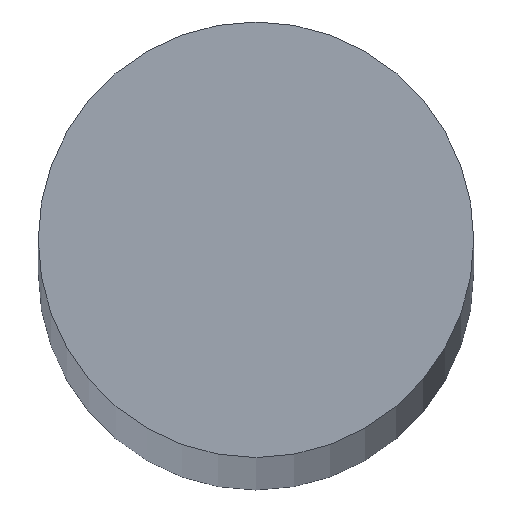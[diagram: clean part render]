
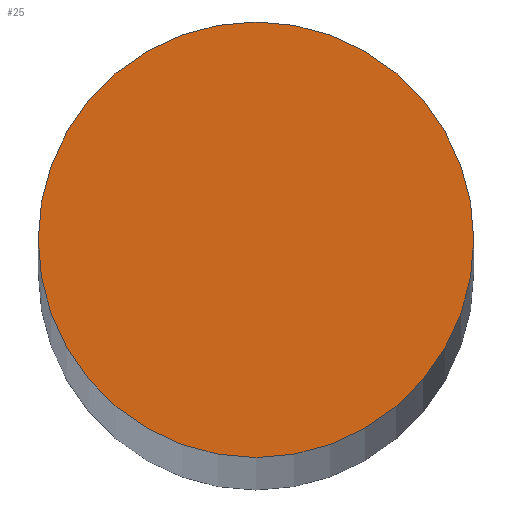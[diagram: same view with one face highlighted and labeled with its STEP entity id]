
A CAD part, top view. The second image highlights one B-rep face of the part: STEP entity #25.
In plain terms, the highlighted planar face has unit normal (0, 0, 1).
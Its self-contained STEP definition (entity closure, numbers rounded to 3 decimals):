
#4 = EDGE_CURVE ( 'NONE', #75, #78, #49, .T. ) ;
#8 = AXIS2_PLACEMENT_3D ( 'NONE', #105, #108, #109 ) ;
#11 = AXIS2_PLACEMENT_3D ( 'NONE', #91, #93, #94 ) ;
#14 = AXIS2_PLACEMENT_3D ( 'NONE', #85, #86, #87 ) ;
#19 = EDGE_CURVE ( 'NONE', #78, #75, #52, .T. ) ;
#25 = ADVANCED_FACE ( 'NONE', ( #55 ), #106, .T. ) ;
#34 = EDGE_LOOP ( 'NONE', ( #40, #39 ) ) ;
#39 = ORIENTED_EDGE ( 'NONE', *, *, #4, .T. ) ;
#40 = ORIENTED_EDGE ( 'NONE', *, *, #19, .T. ) ;
#49 = CIRCLE ( 'NONE', #14, 6. ) ;
#52 = CIRCLE ( 'NONE', #11, 6. ) ;
#55 = FACE_OUTER_BOUND ( 'NONE', #34, .T. ) ;
#75 = VERTEX_POINT ( 'NONE', #115 ) ;
#78 = VERTEX_POINT ( 'NONE', #114 ) ;
#85 = CARTESIAN_POINT ( 'NONE',  ( 0., 0., 256. ) ) ;
#86 = DIRECTION ( 'NONE',  ( 0., 0., 1. ) ) ;
#87 = DIRECTION ( 'NONE',  ( 1., 0., 0. ) ) ;
#91 = CARTESIAN_POINT ( 'NONE',  ( 0., 0., 256. ) ) ;
#93 = DIRECTION ( 'NONE',  ( 0., 0., 1. ) ) ;
#94 = DIRECTION ( 'NONE',  ( 1., 0., 0. ) ) ;
#105 = CARTESIAN_POINT ( 'NONE',  ( 0., 0., 256. ) ) ;
#106 = PLANE ( 'NONE',  #8 ) ;
#108 = DIRECTION ( 'NONE',  ( 0., 0., 1. ) ) ;
#109 = DIRECTION ( 'NONE',  ( 1., 0., 0. ) ) ;
#114 = CARTESIAN_POINT ( 'NONE',  ( -6., 0., 256. ) ) ;
#115 = CARTESIAN_POINT ( 'NONE',  ( 6., 0., 256. ) ) ;
